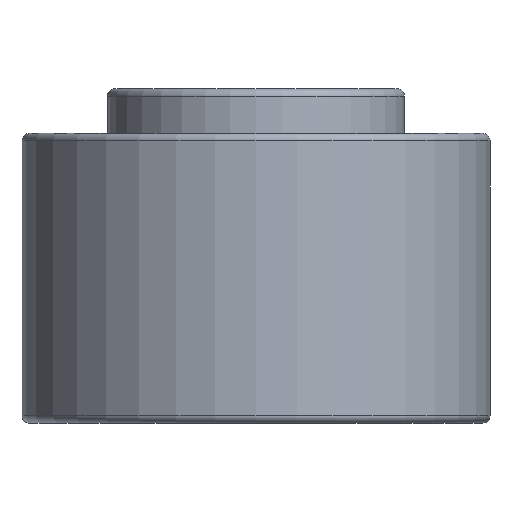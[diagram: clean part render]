
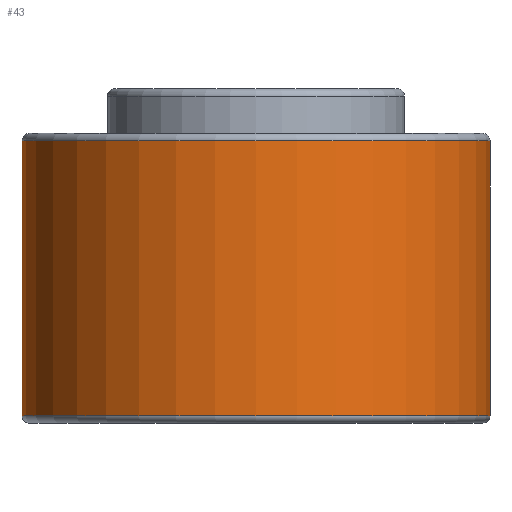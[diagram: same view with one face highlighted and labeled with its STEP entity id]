
A CAD part, front view. The second image highlights one B-rep face of the part: STEP entity #43.
In plain terms, the highlighted cylindrical face has radius 31.5 mm (diameter 63 mm), a full revolution.
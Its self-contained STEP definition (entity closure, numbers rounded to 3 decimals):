
#43=ADVANCED_FACE('',(#56,#57),#53,.T.);
#53=CYLINDRICAL_SURFACE('',#141,31.5);
#56=FACE_BOUND('',#74,.T.);
#57=FACE_BOUND('',#75,.T.);
#74=EDGE_LOOP('',(#92));
#75=EDGE_LOOP('',(#93));
#92=ORIENTED_EDGE('',*,*,#120,.F.);
#93=ORIENTED_EDGE('',*,*,#121,.T.);
#110=VERTEX_POINT('',#200);
#111=VERTEX_POINT('',#202);
#120=EDGE_CURVE('',#110,#110,#129,.T.);
#121=EDGE_CURVE('',#111,#111,#130,.T.);
#129=CIRCLE('',#139,31.5);
#130=CIRCLE('',#140,31.5);
#139=AXIS2_PLACEMENT_3D('',#199,#160,#161);
#140=AXIS2_PLACEMENT_3D('',#201,#162,#163);
#141=AXIS2_PLACEMENT_3D('',#203,#164,#165);
#160=DIRECTION('',(0.,0.,-1.));
#161=DIRECTION('',(-1.,0.,0.));
#162=DIRECTION('',(0.,0.,-1.));
#163=DIRECTION('',(-1.,0.,0.));
#164=DIRECTION('',(0.,0.,-1.));
#165=DIRECTION('',(-1.,0.,0.));
#199=CARTESIAN_POINT('',(0.,0.,1.));
#200=CARTESIAN_POINT('',(-31.5,0.,1.));
#201=CARTESIAN_POINT('',(0.,0.,38.));
#202=CARTESIAN_POINT('',(-31.5,0.,38.));
#203=CARTESIAN_POINT('',(0.,0.,0.));
